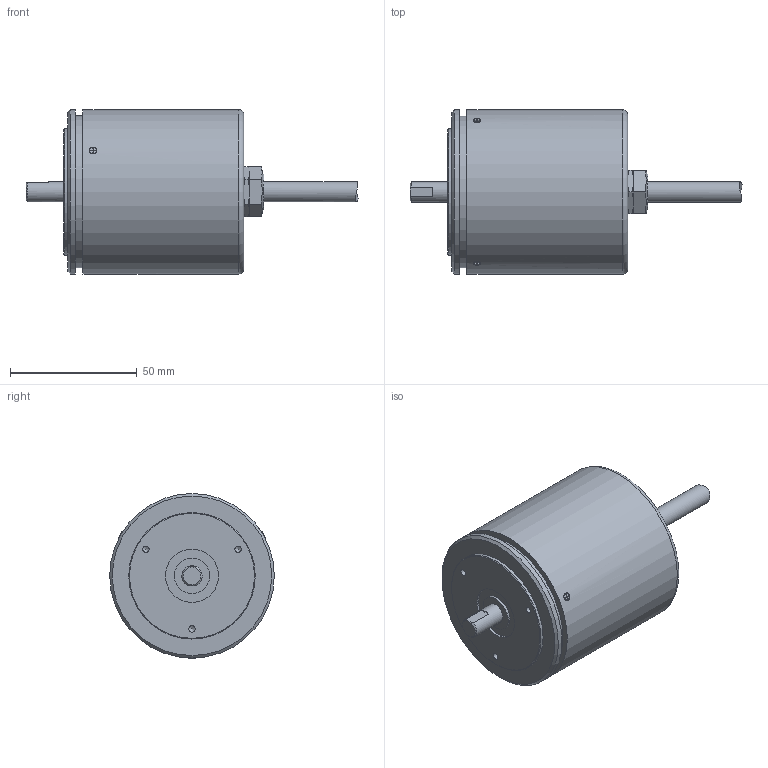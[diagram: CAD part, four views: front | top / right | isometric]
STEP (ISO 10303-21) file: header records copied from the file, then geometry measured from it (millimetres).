
FILE_DESCRIPTION(('STEP AP242'),'1');
FILE_NAME('L4E01C MXS-42-A.stp','2025-08-25T01:57:44',(' '),(' '),'Spatial InterOp 3D',' ',' ');
FILE_SCHEMA(('AP242_MANAGED_MODEL_BASED_3D_ENGINEERING_MIM_LF {1 0 10303 442 1 1 4}'));
Length unit declared in the file: millimetre
Products named in the file (1): L4E01C MXSW-42-A
Bounding box: 131.16 x 65 x 65.15 mm (x, y, z)
Volume: 236003.3 mm3; surface area: 23917.5 mm2
Topology: 1 solids, 6 shells, 139 faces, 314 edges, 200 vertices
Faces by surface type: plane 74, cylinder 35, cone 29, torus 1
Full cylindrical faces by diameter (mm): 1.6 x2, 2 x3, 2.5 x9, 3 x3, 8 x2, 8.5 x1, 9 x1, 12 x1, 14 x1, 21 x1, 50 x1, 60 x1, 65 x2
Entity records: 5071 total; most frequent: CARTESIAN_POINT 1090, DIRECTION 567, ORIENTED_EDGE 488, EDGE_CURVE 244, AXIS2_PLACEMENT_3D 225, EDGE_LOOP 203, VERTEX_POINT 180, FACE_OUTER_BOUND 168
